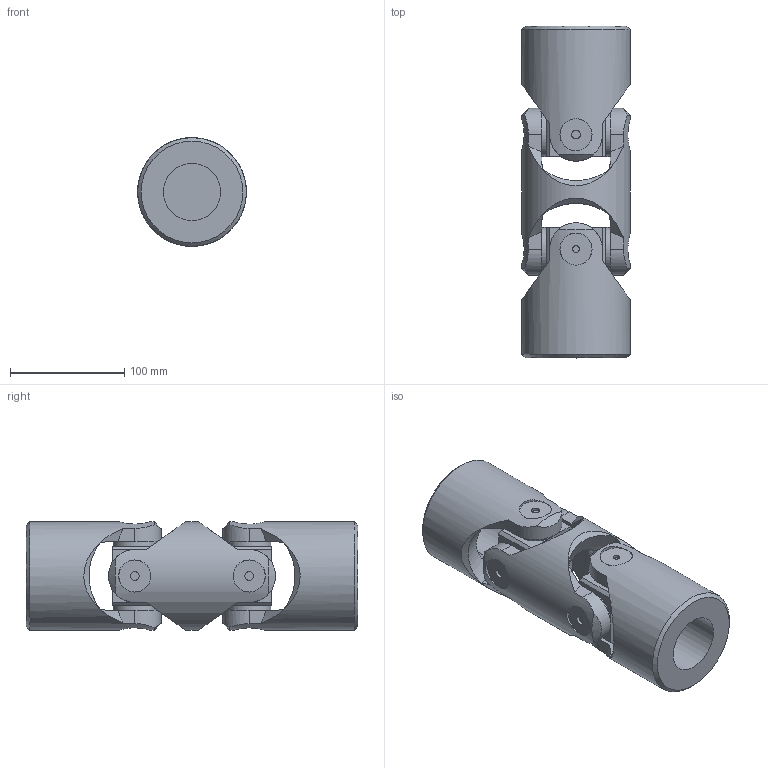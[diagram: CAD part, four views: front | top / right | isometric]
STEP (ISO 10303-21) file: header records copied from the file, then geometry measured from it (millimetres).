
FILE_DESCRIPTION(/* description */ (''),/* implementation_level */ '2;1');
FILE_NAME(/* name */ '\\SRV2016\Societa\Stefano\Disegni 3D\00Catalogo 3D\02Doppi GD-GBD\SG0D5000.stp',/* time_stamp */ '2021-11-23T16:03:53+01:00',/* author */ ('acquisti'),/* organization */ (''),/* preprocessor_version */ 'ST-DEVELOPER v15.6',/* originating_system */ 'Autodesk Inventor 2015',/* authorisation */ '');
FILE_SCHEMA (('AUTOMOTIVE_DESIGN { 1 0 10303 214 3 1 1 }'));
Length unit declared in the file: millimetre
Products named in the file (4): 9G MOD; 9G SFE; 9G MOS; Ø95_9GD-00_SG0D5000
Assembly tree (5 placements, depth 2):
  Ø95_9GD-00_SG0D5000
    9G MOD
    9G SFE  x2
    9G MOS  x2
Bounding box: 95 x 290 x 95 mm (x, y, z)
Volume: 1250071.5 mm3; surface area: 176436.1 mm2
Topology: 5 solids, 5 shells, 153 faces, 375 edges, 256 vertices
Faces by surface type: plane 70, cylinder 49, cone 30, torus 4
Full cylindrical faces by diameter (mm): 6 x4, 7.494 x4, 28 x8, 38 x8, 50 x2, 56 x4, 95 x3
Entity records: 3834 total; most frequent: CARTESIAN_POINT 1514, ORIENTED_EDGE 446, DIRECTION 446, EDGE_CURVE 223, AXIS2_PLACEMENT_3D 197, VERTEX_POINT 167, EDGE_LOOP 150, FACE_OUTER_BOUND 104
